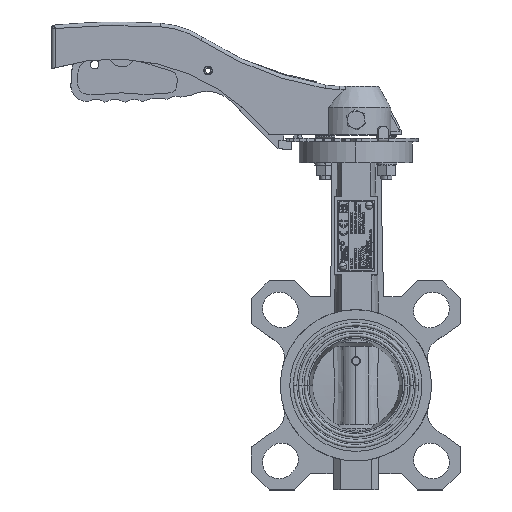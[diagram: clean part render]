
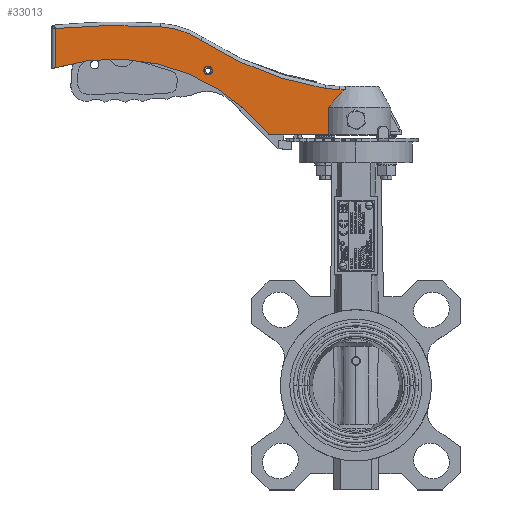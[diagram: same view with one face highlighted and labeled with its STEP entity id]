
A CAD part, top view. The second image highlights one B-rep face of the part: STEP entity #33013.
In plain terms, the highlighted planar face has unit normal (0.003, 0, 1).
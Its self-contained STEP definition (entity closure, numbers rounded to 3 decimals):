
#1374 = EDGE_CURVE ( 'NONE', #11875, #56314, #56059, .T. ) ;
#2730 = CARTESIAN_POINT ( 'NONE',  ( -12.853, 163.565, 12.534 ) ) ;
#3023 = DIRECTION ( 'NONE',  ( 0.003, 0., 1. ) ) ;
#4897 = DIRECTION ( 'NONE',  ( -0.003, 0., -1. ) ) ;
#4956 = EDGE_CURVE ( 'NONE', #61321, #61097, #40057, .T. ) ;
#5983 = CARTESIAN_POINT ( 'NONE',  ( -7.51, 169.293, 12.52 ) ) ;
#6018 = VERTEX_POINT ( 'NONE', #23890 ) ;
#6366 = ORIENTED_EDGE ( 'NONE', *, *, #4956, .F. ) ;
#6389 = ORIENTED_EDGE ( 'NONE', *, *, #24890, .F. ) ;
#6416 = CARTESIAN_POINT ( 'NONE',  ( -17.708, 170.714, 12.547 ) ) ;
#8537 = CARTESIAN_POINT ( 'NONE',  ( -10.657, 166.104, 12.528 ) ) ;
#9257 = EDGE_CURVE ( 'NONE', #49910, #16396, #43384, .T. ) ;
#9595 = CARTESIAN_POINT ( 'NONE',  ( -67.484, 184.388, 12.68 ) ) ;
#9717 = CARTESIAN_POINT ( 'NONE',  ( -15.579, 379.049, 12.542 ) ) ;
#11146 = DIRECTION ( 'NONE',  ( 0., -1., 0. ) ) ;
#11875 = VERTEX_POINT ( 'NONE', #76011 ) ;
#12108 = CARTESIAN_POINT ( 'NONE',  ( -84.966, 181.01, 12.726 ) ) ;
#12151 = VERTEX_POINT ( 'NONE', #70485 ) ;
#12442 = AXIS2_PLACEMENT_3D ( 'NONE', #12108, #64840, #64463 ) ;
#12992 = VERTEX_POINT ( 'NONE', #74008 ) ;
#14708 = LINE ( 'NONE', #19740, #33239 ) ;
#15131 = AXIS2_PLACEMENT_3D ( 'NONE', #55775, #3023, #56536 ) ;
#15465 = DIRECTION ( 'NONE',  ( -0.003, 0., -1. ) ) ;
#16396 = VERTEX_POINT ( 'NONE', #59204 ) ;
#16919 = FACE_OUTER_BOUND ( 'NONE', #35043, .T. ) ;
#17991 = CARTESIAN_POINT ( 'NONE',  ( -6.628, 170.004, 12.518 ) ) ;
#19335 = EDGE_CURVE ( 'NONE', #29723, #12151, #68167, .T. ) ;
#19740 = CARTESIAN_POINT ( 'NONE',  ( 0.033, 170.004, 12.5 ) ) ;
#21226 = ORIENTED_EDGE ( 'NONE', *, *, #55921, .F. ) ;
#21298 = CARTESIAN_POINT ( 'NONE',  ( -172.966, 144., 12.96 ) ) ;
#21527 = ORIENTED_EDGE ( 'NONE', *, *, #1374, .F. ) ;
#21958 = FACE_BOUND ( 'NONE', #59535, .T. ) ;
#22413 = CARTESIAN_POINT ( 'NONE',  ( -152.809, 207.139, 12.907 ) ) ;
#22812 = CARTESIAN_POINT ( 'NONE',  ( -112.35, 206.187, 12.799 ) ) ;
#23108 = CARTESIAN_POINT ( 'NONE',  ( 0.033, 144., 12.5 ) ) ;
#23170 = CARTESIAN_POINT ( 'NONE',  ( -139.483, 74.129, 12.871 ) ) ;
#23890 = CARTESIAN_POINT ( 'NONE',  ( -112.35, 206.187, 12.799 ) ) ;
#23969 = CARTESIAN_POINT ( 'NONE',  ( -15.579, 160., 12.542 ) ) ;
#24080 = ORIENTED_EDGE ( 'NONE', *, *, #70776, .T. ) ;
#24091 = EDGE_CURVE ( 'NONE', #12992, #6018, #34253, .T. ) ;
#24147 = CARTESIAN_POINT ( 'NONE',  ( -15.579, 160., 12.542 ) ) ;
#24890 = EDGE_CURVE ( 'NONE', #28248, #12992, #62805, .T. ) ;
#24963 = ORIENTED_EDGE ( 'NONE', *, *, #24091, .F. ) ;
#27489 = LINE ( 'NONE', #9717, #49903 ) ;
#28248 = VERTEX_POINT ( 'NONE', #76615 ) ;
#28997 = VECTOR ( 'NONE', #39117, 1000. ) ;
#29723 = VERTEX_POINT ( 'NONE', #47770 ) ;
#29905 = CIRCLE ( 'NONE', #15131, 2.5 ) ;
#31190 = EDGE_CURVE ( 'NONE', #38827, #61321, #14708, .T. ) ;
#33013 = ADVANCED_FACE ( 'NONE', ( #21958, #16919 ), #33942, .F. ) ;
#33239 = VECTOR ( 'NONE', #62010, 1000. ) ;
#33942 = PLANE ( 'NONE',  #37196 ) ;
#33961 = CARTESIAN_POINT ( 'NONE',  ( -17.708, 170.714, 12.547 ) ) ;
#34074 = DIRECTION ( 'NONE',  ( 0., -1., 0. ) ) ;
#34253 =( BOUNDED_CURVE ( )  B_SPLINE_CURVE ( 3, ( #51953, #22413, #75948, #22812 ),
 .UNSPECIFIED., .F., .F. ) 
 B_SPLINE_CURVE_WITH_KNOTS ( ( 4, 4 ),
 ( 0., 1. ),
 .UNSPECIFIED. ) 
 CURVE ( )  GEOMETRIC_REPRESENTATION_ITEM ( )  RATIONAL_B_SPLINE_CURVE ( ( 1., 0.998, 0.998, 1. ) ) 
 REPRESENTATION_ITEM ( '' )  );
#35043 = EDGE_LOOP ( 'NONE', ( #68144, #21226, #6366, #35735, #46206, #21527, #61245, #24963, #6389, #24080 ) ) ;
#35408 = CARTESIAN_POINT ( 'NONE',  ( -9.905, 166.932, 12.526 ) ) ;
#35735 = ORIENTED_EDGE ( 'NONE', *, *, #31190, .F. ) ;
#36618 = CARTESIAN_POINT ( 'NONE',  ( -9.149, 170.004, 12.524 ) ) ;
#37196 = AXIS2_PLACEMENT_3D ( 'NONE', #23108, #4897, #11146 ) ;
#37530 = CARTESIAN_POINT ( 'NONE',  ( -96.195, 203.05, 12.756 ) ) ;
#38822 = VECTOR ( 'NONE', #72085, 1000. ) ;
#38827 = VERTEX_POINT ( 'NONE', #54287 ) ;
#39093 = DIRECTION ( 'NONE',  ( 0., -1., 0. ) ) ;
#39117 = DIRECTION ( 'NONE',  ( 0., 1., 0. ) ) ;
#40057 = B_SPLINE_CURVE_WITH_KNOTS ( 'NONE', 3,
 ( #17991, #5983, #61678, #35408, #8537, #2730, #59115, #24147 ),
 .UNSPECIFIED., .F., .F.,
 ( 4, 2, 2, 4 ),
 ( 0., 0.003, 0.007, 0.013 ),
 .UNSPECIFIED. ) ;
#41602 = ORIENTED_EDGE ( 'NONE', *, *, #19335, .F. ) ;
#42949 = ORIENTED_EDGE ( 'NONE', *, *, #54905, .F. ) ;
#43384 = LINE ( 'NONE', #55406, #38822 ) ;
#43816 =( BOUNDED_CURVE ( )  B_SPLINE_CURVE ( 3, ( #6416, #71192, #53384, #36618 ),
 .UNSPECIFIED., .F., .F. ) 
 B_SPLINE_CURVE_WITH_KNOTS ( ( 4, 4 ),
 ( 0., 1. ),
 .UNSPECIFIED. ) 
 CURVE ( )  GEOMETRIC_REPRESENTATION_ITEM ( )  RATIONAL_B_SPLINE_CURVE ( ( 1., 0.998, 0.998, 1. ) ) 
 REPRESENTATION_ITEM ( '' )  );
#45284 = CARTESIAN_POINT ( 'NONE',  ( -43.301, 174.985, 12.615 ) ) ;
#46047 = CARTESIAN_POINT ( 'NONE',  ( -89.239, 198.529, 12.738 ) ) ;
#46206 = ORIENTED_EDGE ( 'NONE', *, *, #76588, .F. ) ;
#47770 = CARTESIAN_POINT ( 'NONE',  ( -84.966, 183.51, 12.726 ) ) ;
#49903 = VECTOR ( 'NONE', #34074, 1000. ) ;
#49910 = VERTEX_POINT ( 'NONE', #59145 ) ;
#50422 = CIRCLE ( 'NONE', #67743, 113.557 ) ;
#51953 = CARTESIAN_POINT ( 'NONE',  ( -172.966, 205.189, 12.96 ) ) ;
#53384 = CARTESIAN_POINT ( 'NONE',  ( -12.018, 170.004, 12.532 ) ) ;
#53437 = CARTESIAN_POINT ( 'NONE',  ( -6.628, 170.004, 12.518 ) ) ;
#53604 =( BOUNDED_CURVE ( )  B_SPLINE_CURVE ( 3, ( #74379, #68586, #37530, #61219 ),
 .UNSPECIFIED., .F., .F. ) 
 B_SPLINE_CURVE_WITH_KNOTS ( ( 4, 4 ),
 ( 0., 1. ),
 .UNSPECIFIED. ) 
 CURVE ( )  GEOMETRIC_REPRESENTATION_ITEM ( )  RATIONAL_B_SPLINE_CURVE ( ( 1., 0.978, 0.978, 1. ) ) 
 REPRESENTATION_ITEM ( '' )  );
#54287 = CARTESIAN_POINT ( 'NONE',  ( -9.149, 170.004, 12.524 ) ) ;
#54905 = EDGE_CURVE ( 'NONE', #12151, #29723, #29905, .T. ) ;
#55406 = CARTESIAN_POINT ( 'NONE',  ( 0.033, 144., 12.5 ) ) ;
#55775 = CARTESIAN_POINT ( 'NONE',  ( -84.966, 181.01, 12.726 ) ) ;
#55921 = EDGE_CURVE ( 'NONE', #61097, #49910, #27489, .T. ) ;
#56059 =( BOUNDED_CURVE ( )  B_SPLINE_CURVE ( 3, ( #46047, #9595, #45284, #33961 ),
 .UNSPECIFIED., .F., .T. ) 
 B_SPLINE_CURVE_WITH_KNOTS ( ( 4, 4 ),
 ( 0., 1. ),
 .UNSPECIFIED. ) 
 CURVE ( )  GEOMETRIC_REPRESENTATION_ITEM ( )  RATIONAL_B_SPLINE_CURVE ( ( 1., 0.986, 0.986, 1. ) ) 
 REPRESENTATION_ITEM ( '' )  );
#56314 = VERTEX_POINT ( 'NONE', #56370 ) ;
#56370 = CARTESIAN_POINT ( 'NONE',  ( -17.708, 170.714, 12.547 ) ) ;
#56536 = DIRECTION ( 'NONE',  ( 0., -1., 0. ) ) ;
#59115 = CARTESIAN_POINT ( 'NONE',  ( -14.235, 161.799, 12.538 ) ) ;
#59145 = CARTESIAN_POINT ( 'NONE',  ( -15.579, 144., 12.542 ) ) ;
#59204 = CARTESIAN_POINT ( 'NONE',  ( -49.967, 144., 12.633 ) ) ;
#59535 = EDGE_LOOP ( 'NONE', ( #42949, #41602 ) ) ;
#61097 = VERTEX_POINT ( 'NONE', #23969 ) ;
#61219 = CARTESIAN_POINT ( 'NONE',  ( -89.239, 198.529, 12.738 ) ) ;
#61245 = ORIENTED_EDGE ( 'NONE', *, *, #66778, .F. ) ;
#61321 = VERTEX_POINT ( 'NONE', #53437 ) ;
#61678 = CARTESIAN_POINT ( 'NONE',  ( -8.331, 168.526, 12.522 ) ) ;
#62010 = DIRECTION ( 'NONE',  ( 1., 0., -0.003 ) ) ;
#62805 = LINE ( 'NONE', #21298, #28997 ) ;
#64463 = DIRECTION ( 'NONE',  ( 0., -1., 0. ) ) ;
#64840 = DIRECTION ( 'NONE',  ( 0.003, 0., 1. ) ) ;
#66778 = EDGE_CURVE ( 'NONE', #6018, #11875, #53604, .T. ) ;
#67743 = AXIS2_PLACEMENT_3D ( 'NONE', #23170, #15465, #39093 ) ;
#68144 = ORIENTED_EDGE ( 'NONE', *, *, #9257, .F. ) ;
#68167 = CIRCLE ( 'NONE', #12442, 2.5 ) ;
#68586 = CARTESIAN_POINT ( 'NONE',  ( -104.07, 205.66, 12.777 ) ) ;
#70485 = CARTESIAN_POINT ( 'NONE',  ( -84.966, 178.51, 12.726 ) ) ;
#70776 = EDGE_CURVE ( 'NONE', #28248, #16396, #50422, .T. ) ;
#71192 = CARTESIAN_POINT ( 'NONE',  ( -14.878, 170.241, 12.54 ) ) ;
#72085 = DIRECTION ( 'NONE',  ( -1., 0., 0.003 ) ) ;
#74008 = CARTESIAN_POINT ( 'NONE',  ( -172.966, 205.189, 12.96 ) ) ;
#74379 = CARTESIAN_POINT ( 'NONE',  ( -112.35, 206.187, 12.799 ) ) ;
#75948 = CARTESIAN_POINT ( 'NONE',  ( -132.56, 207.473, 12.853 ) ) ;
#76011 = CARTESIAN_POINT ( 'NONE',  ( -89.239, 198.529, 12.738 ) ) ;
#76588 = EDGE_CURVE ( 'NONE', #56314, #38827, #43816, .T. ) ;
#76615 = CARTESIAN_POINT ( 'NONE',  ( -172.966, 182.638, 12.96 ) ) ;
